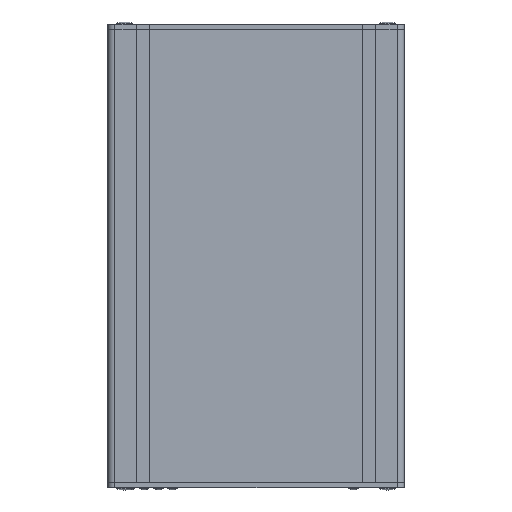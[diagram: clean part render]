
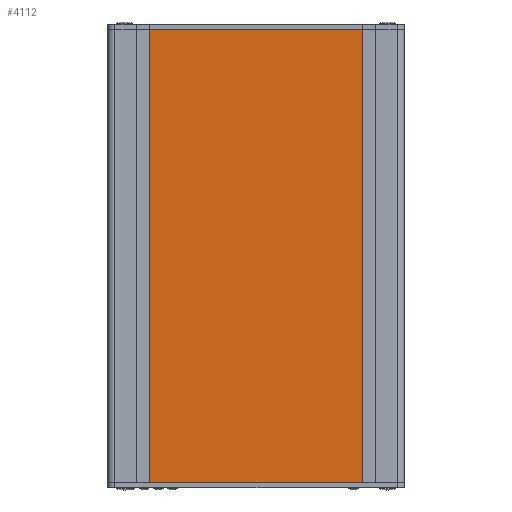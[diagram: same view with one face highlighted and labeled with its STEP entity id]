
A CAD part, front view. The second image highlights one B-rep face of the part: STEP entity #4112.
In plain terms, the highlighted planar face has unit normal (0, -1, 0).
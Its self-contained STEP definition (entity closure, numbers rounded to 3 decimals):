
#689 = CARTESIAN_POINT ( 'NONE',  ( 28.189, 76.941, 35.92 ) ) ;
#737 = VERTEX_POINT ( 'NONE', #14044 ) ;
#999 = DIRECTION ( 'NONE',  ( 0., 0., 1. ) ) ;
#1354 = EDGE_CURVE ( 'NONE', #737, #9800, #11039, .T. ) ;
#2433 = FACE_OUTER_BOUND ( 'NONE', #6513, .T. ) ;
#2878 = CARTESIAN_POINT ( 'NONE',  ( 28.189, 76.941, 35.92 ) ) ;
#3860 = CARTESIAN_POINT ( 'NONE',  ( 103.689, 76.941, 35.92 ) ) ;
#4112 = ADVANCED_FACE ( 'NONE', ( #2433 ), #14125, .T. ) ;
#5271 = EDGE_CURVE ( 'NONE', #9625, #13484, #6613, .T. ) ;
#5802 = CARTESIAN_POINT ( 'NONE',  ( 103.689, 76.941, 195.92 ) ) ;
#5815 = VECTOR ( 'NONE', #11112, 1000. ) ;
#6024 = LINE ( 'NONE', #5802, #12493 ) ;
#6093 = CARTESIAN_POINT ( 'NONE',  ( 103.689, 76.941, 195.92 ) ) ;
#6513 = EDGE_LOOP ( 'NONE', ( #9010, #8329, #11096, #7578 ) ) ;
#6612 = VECTOR ( 'NONE', #999, 1000. ) ;
#6613 = LINE ( 'NONE', #689, #5815 ) ;
#7578 = ORIENTED_EDGE ( 'NONE', *, *, #1354, .T. ) ;
#8329 = ORIENTED_EDGE ( 'NONE', *, *, #5271, .F. ) ;
#9010 = ORIENTED_EDGE ( 'NONE', *, *, #11941, .T. ) ;
#9625 = VERTEX_POINT ( 'NONE', #2878 ) ;
#9651 = AXIS2_PLACEMENT_3D ( 'NONE', #3860, #14047, #11519 ) ;
#9677 = EDGE_CURVE ( 'NONE', #9625, #737, #12088, .T. ) ;
#9800 = VERTEX_POINT ( 'NONE', #6093 ) ;
#9866 = DIRECTION ( 'NONE',  ( 1., 0., 0. ) ) ;
#11039 = LINE ( 'NONE', #12159, #6612 ) ;
#11096 = ORIENTED_EDGE ( 'NONE', *, *, #9677, .T. ) ;
#11112 = DIRECTION ( 'NONE',  ( 0., 0., 1. ) ) ;
#11248 = VECTOR ( 'NONE', #9866, 1000. ) ;
#11519 = DIRECTION ( 'NONE',  ( 0., 0., -1. ) ) ;
#11941 = EDGE_CURVE ( 'NONE', #9800, #13484, #6024, .T. ) ;
#12088 = LINE ( 'NONE', #12238, #11248 ) ;
#12159 = CARTESIAN_POINT ( 'NONE',  ( 103.689, 76.941, 35.92 ) ) ;
#12238 = CARTESIAN_POINT ( 'NONE',  ( 28.189, 76.941, 35.92 ) ) ;
#12493 = VECTOR ( 'NONE', #14039, 1000. ) ;
#12523 = CARTESIAN_POINT ( 'NONE',  ( 28.189, 76.941, 195.92 ) ) ;
#13484 = VERTEX_POINT ( 'NONE', #12523 ) ;
#14039 = DIRECTION ( 'NONE',  ( -1., 0., 0. ) ) ;
#14044 = CARTESIAN_POINT ( 'NONE',  ( 103.689, 76.941, 35.92 ) ) ;
#14047 = DIRECTION ( 'NONE',  ( 0., -1., 0. ) ) ;
#14125 = PLANE ( 'NONE',  #9651 ) ;
